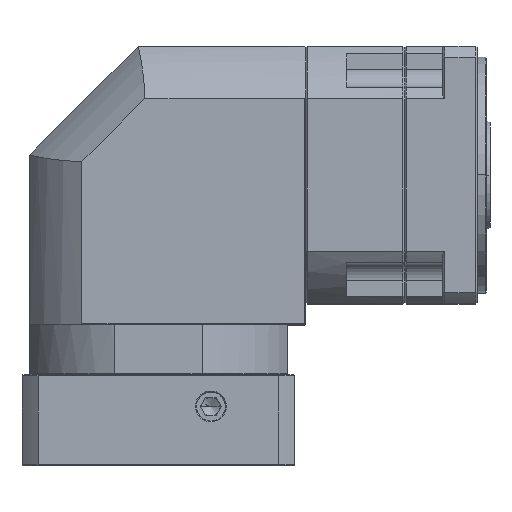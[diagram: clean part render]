
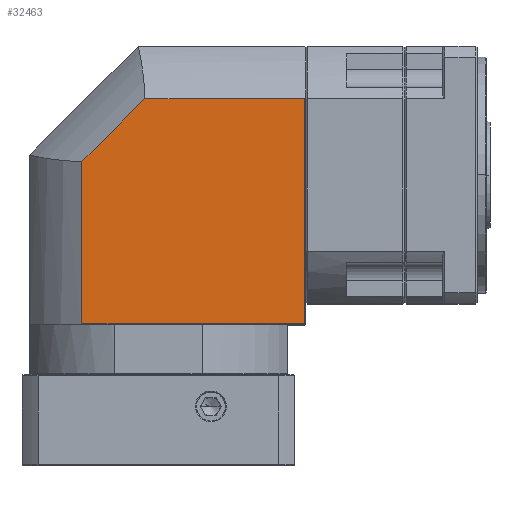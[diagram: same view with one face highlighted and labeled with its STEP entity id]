
A CAD part, top view. The second image highlights one B-rep face of the part: STEP entity #32463.
In plain terms, the highlighted planar face has unit normal (0, 0, 1).
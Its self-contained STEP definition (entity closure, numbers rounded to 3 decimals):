
#560 = VECTOR ( 'NONE', #101623, 1000. ) ;
#1409 = EDGE_CURVE ( 'NONE', #118677, #22844, #61355, .T. ) ;
#10155 = LINE ( 'NONE', #83468, #107905 ) ;
#12530 = VECTOR ( 'NONE', #165681, 1000. ) ;
#13812 = EDGE_CURVE ( 'NONE', #22844, #63849, #71712, .T. ) ;
#19584 = VECTOR ( 'NONE', #105629, 1000. ) ;
#22844 = VERTEX_POINT ( 'NONE', #83882 ) ;
#26558 = CARTESIAN_POINT ( 'NONE',  ( -56.248, -92.451, 312.56 ) ) ;
#30256 = ORIENTED_EDGE ( 'NONE', *, *, #114517, .T. ) ;
#32463 = ADVANCED_FACE ( 'NONE', ( #151006 ), #86511, .T. ) ;
#36283 = CARTESIAN_POINT ( 'NONE',  ( -21.575, 31.563, 312.56 ) ) ;
#43621 = ORIENTED_EDGE ( 'NONE', *, *, #1409, .T. ) ;
#54222 = LINE ( 'NONE', #158642, #19584 ) ;
#61355 = LINE ( 'NONE', #36283, #12530 ) ;
#63849 = VERTEX_POINT ( 'NONE', #26558 ) ;
#69902 = CARTESIAN_POINT ( 'NONE',  ( 66.467, -16.201, 312.56 ) ) ;
#70448 = DIRECTION ( 'NONE',  ( 0., 1., 0. ) ) ;
#71712 = LINE ( 'NONE', #88538, #560 ) ;
#75129 = EDGE_LOOP ( 'NONE', ( #43621, #160638, #30256, #165563, #132207 ) ) ;
#75450 = CARTESIAN_POINT ( 'NONE',  ( 66.467, 31.563, 312.56 ) ) ;
#83468 = CARTESIAN_POINT ( 'NONE',  ( -9.133, -92.451, 312.56 ) ) ;
#83751 = VECTOR ( 'NONE', #70448, 1000. ) ;
#83882 = CARTESIAN_POINT ( 'NONE',  ( -56.248, -3.109, 312.56 ) ) ;
#86511 = PLANE ( 'NONE',  #91371 ) ;
#88538 = CARTESIAN_POINT ( 'NONE',  ( -56.248, -16.201, 312.56 ) ) ;
#90533 = EDGE_CURVE ( 'NONE', #165429, #118677, #54222, .T. ) ;
#91371 = AXIS2_PLACEMENT_3D ( 'NONE', #98994, #153116, #111598 ) ;
#94333 = DIRECTION ( 'NONE',  ( 1., 0., 0. ) ) ;
#98994 = CARTESIAN_POINT ( 'NONE',  ( -9.133, -16.201, 312.56 ) ) ;
#100103 = VERTEX_POINT ( 'NONE', #164050 ) ;
#101623 = DIRECTION ( 'NONE',  ( 0., -1., 0. ) ) ;
#105629 = DIRECTION ( 'NONE',  ( -1., 0., 0. ) ) ;
#107905 = VECTOR ( 'NONE', #94333, 1000. ) ;
#109976 = EDGE_CURVE ( 'NONE', #100103, #165429, #118410, .T. ) ;
#111598 = DIRECTION ( 'NONE',  ( 1., 0., 0. ) ) ;
#114517 = EDGE_CURVE ( 'NONE', #63849, #100103, #10155, .T. ) ;
#118410 = LINE ( 'NONE', #69902, #83751 ) ;
#118677 = VERTEX_POINT ( 'NONE', #125393 ) ;
#125393 = CARTESIAN_POINT ( 'NONE',  ( -21.575, 31.563, 312.56 ) ) ;
#132207 = ORIENTED_EDGE ( 'NONE', *, *, #90533, .T. ) ;
#151006 = FACE_OUTER_BOUND ( 'NONE', #75129, .T. ) ;
#153116 = DIRECTION ( 'NONE',  ( 0., 0., 1. ) ) ;
#158642 = CARTESIAN_POINT ( 'NONE',  ( -9.133, 31.563, 312.56 ) ) ;
#160638 = ORIENTED_EDGE ( 'NONE', *, *, #13812, .T. ) ;
#164050 = CARTESIAN_POINT ( 'NONE',  ( 66.467, -92.451, 312.56 ) ) ;
#165429 = VERTEX_POINT ( 'NONE', #75450 ) ;
#165563 = ORIENTED_EDGE ( 'NONE', *, *, #109976, .T. ) ;
#165681 = DIRECTION ( 'NONE',  ( -0.707, -0.707, 0. ) ) ;
